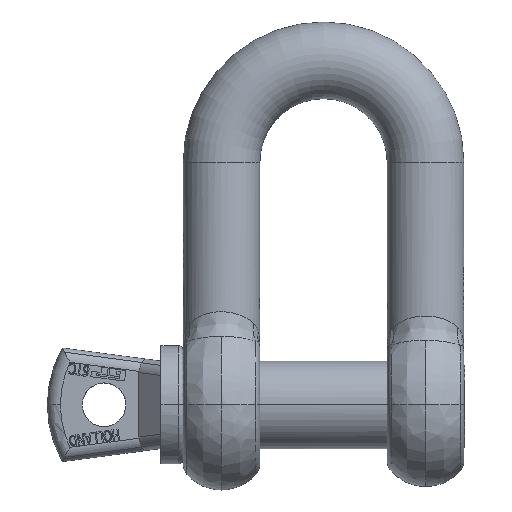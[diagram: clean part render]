
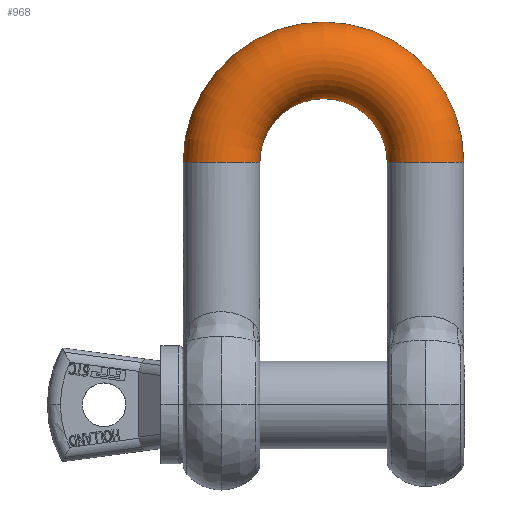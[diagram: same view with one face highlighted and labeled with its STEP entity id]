
A CAD part, top view. The second image highlights one B-rep face of the part: STEP entity #968.
In plain terms, the highlighted toroidal (fillet/blend) face has major radius 66.5 mm and minor radius 25 mm.
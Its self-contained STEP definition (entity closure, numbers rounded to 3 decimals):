
#968=ADVANCED_FACE('',(#2451),#2452,.T.);
#2451=FACE_OUTER_BOUND('',#5709,.T.);
#2452=TOROIDAL_SURFACE('',#5710,66.5,25.0);
#5709=EDGE_LOOP('',(#10645,#10646,#10647,#10648));
#5710=AXIS2_PLACEMENT_3D('',#10649,#10650,#10651);
#10645=ORIENTED_EDGE('',*,*,#15963,.F.);
#10646=ORIENTED_EDGE('',*,*,#16015,.F.);
#10647=ORIENTED_EDGE('',*,*,#15961,.F.);
#10648=ORIENTED_EDGE('',*,*,#15641,.T.);
#10649=CARTESIAN_POINT('',(0.0,158.0,0.0));
#10650=DIRECTION('',(0.0,0.0,-1.0));
#10651=DIRECTION('',(-1.0,0.0,0.0));
#15641=EDGE_CURVE('',#18294,#18296,#18583,.F.);
#15961=EDGE_CURVE('',#18294,#19061,#19062,.F.);
#15963=EDGE_CURVE('',#19063,#18296,#19065,.T.);
#16015=EDGE_CURVE('',#19061,#19063,#19135,.T.);
#18294=VERTEX_POINT('',#22807);
#18296=VERTEX_POINT('',#22810);
#18583=CIRCLE('',#24031,25.0);
#19061=VERTEX_POINT('',#25125);
#19062=CIRCLE('',#25126,41.5);
#19063=VERTEX_POINT('',#25127);
#19065=CIRCLE('',#25129,91.5);
#19135=CIRCLE('',#25273,25.0);
#22807=CARTESIAN_POINT('',(41.5,158.0,0.0));
#22810=CARTESIAN_POINT('',(91.5,158.0,0.));
#24031=AXIS2_PLACEMENT_3D('',#33189,#33190,#33191);
#25125=CARTESIAN_POINT('',(-41.5,158.0,0.0));
#25126=AXIS2_PLACEMENT_3D('',#33260,#33261,#33262);
#25127=CARTESIAN_POINT('',(-91.5,158.0,0.));
#25129=AXIS2_PLACEMENT_3D('',#33266,#33267,#33268);
#25273=AXIS2_PLACEMENT_3D('',#33293,#33294,#33295);
#33189=CARTESIAN_POINT('',(66.5,158.0,0.0));
#33190=DIRECTION('',(0.0,-1.0,0.0));
#33191=DIRECTION('',(1.0,0.0,0.0));
#33260=CARTESIAN_POINT('',(0.0,158.0,0.));
#33261=DIRECTION('',(0.0,0.0,-1.0));
#33262=DIRECTION('',(1.0,0.0,0.0));
#33266=CARTESIAN_POINT('',(0.0,158.0,0.0));
#33267=DIRECTION('',(0.0,0.0,-1.0));
#33268=DIRECTION('',(1.0,0.0,0.0));
#33293=CARTESIAN_POINT('',(-66.5,158.0,0.0));
#33294=DIRECTION('',(0.0,-1.0,0.0));
#33295=DIRECTION('',(1.0,0.0,0.0));
